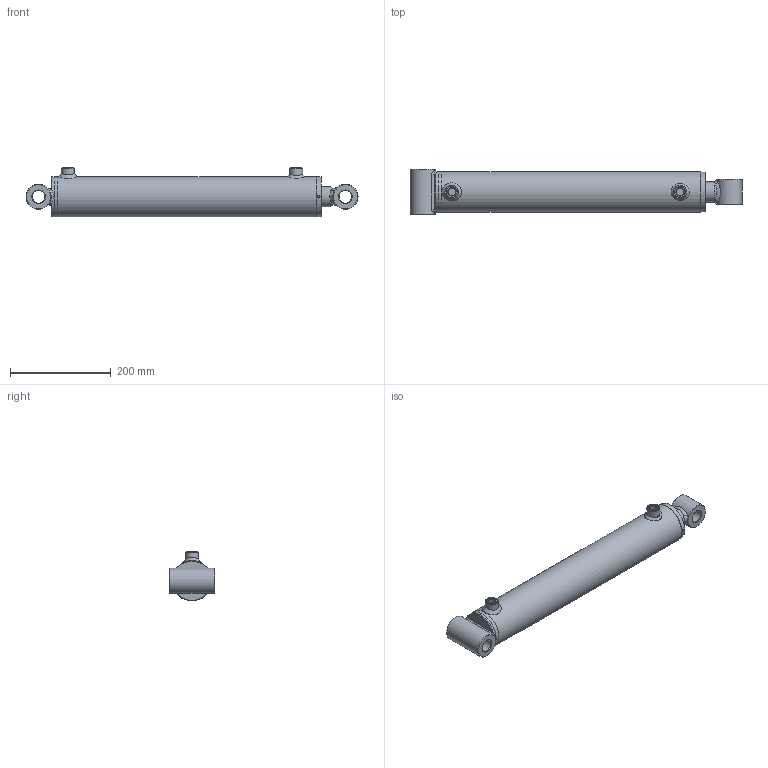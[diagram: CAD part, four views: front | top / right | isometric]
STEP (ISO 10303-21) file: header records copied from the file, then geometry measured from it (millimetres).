
FILE_DESCRIPTION( ( 'Unknown' ), '1' );
FILE_NAME( 'E:/LIBRERIA_3d/CILINDRI/HM2/HM24400400.stp', 'Unknown', ( 'Unknown' ), ( 'Unknown' ), 'PSStep 17.0.49', 'Unknown', ' ' );
FILE_SCHEMA( ( 'AUTOMOTIVE_DESIGN { 1 0 10303 214 1 1 1 1 }' ) );
Length unit declared in the file: millimetre
Products named in the file (26): STL4500400-oa4; Saldatura d'angolo 1-oa2; FTM4500400-oa3; CBSC220600; CT00070027; CG08007040; HM04400400; Saldatura con preparazione 1-oa0; Saldatura d'angolo 1-oa1; CF00070080; CBS0600000; CDB0002720; APG0600000; SBL4040400; Assem1; CB25050050; CB25050090; Saldatura d'angolo 1-oa5; Saldatura d'angolo 2-oa6
Assembly tree (18 placements, depth 4):
  Saldatura d'angolo 1-oa2
  Saldatura d'angolo 1-oa2
  Saldatura d'angolo 1-oa1
  Saldatura d'angolo 1-oa1
  Assem1
    CB25050050
    CB25050090
    HM04400400
      Saldatura con preparazione 1-oa0
      Saldatura con preparazione 1-oa0
      CF00070080
      CBS0600000
      CDB0002720
      APG0600000  x2
      SBL4040400
      CG08007040
        CG08007040
      CT00070027
        CT00070027
      STL4500400-oa4
        FTM4500400-oa3
        CBSC220600
Bounding box: 660 x 90 x 99 mm (x, y, z)
Volume: 1786538.8 mm3; surface area: 458131.5 mm2
Topology: 22 solids, 22 shells, 294 faces, 614 edges, 369 vertices
Faces by surface type: bspline 84, plane 74, cylinder 59, cone 40, torus 37
Full cylindrical faces by diameter (mm): 4.25 x1, 5 x2, 6 x2, 7 x2, 14.95 x2, 16 x2, 16.6 x2, 22 x2, 25.25 x2, 26 x2, 26.4 x1, 27 x5, 33.2 x1, 40 x4, 41 x1, 42 x1, 43 x1, 48.6 x1, 50 x4, 64.18 x2, 65 x1, 68.34 x2, 69.9 x1, 70 x1, 70.3 x1, 70.5 x1, 70.6 x1, 71 x1, 72 x3, 72.5 x1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
Entity records: 18324 total; most frequent: CARTESIAN_POINT 11135, DIRECTION 846, ORIENTED_EDGE 822, EDGE_LOOP 468, EDGE_CURVE 411, AXIS2_PLACEMENT_3D 405, FACE_OUTER_BOUND 386, VERTEX_POINT 318
